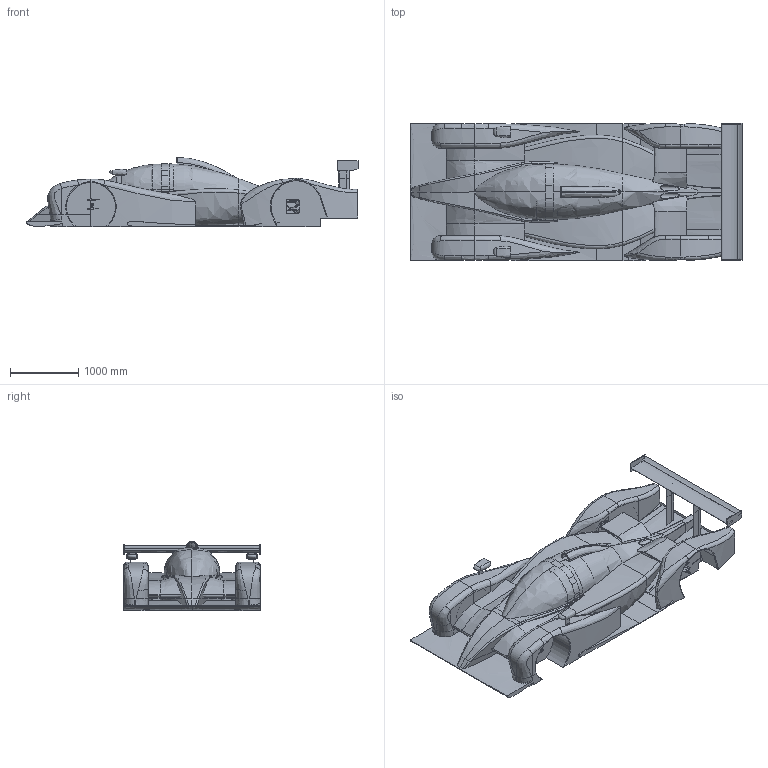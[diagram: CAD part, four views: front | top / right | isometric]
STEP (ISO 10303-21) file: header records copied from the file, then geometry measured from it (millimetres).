
FILE_DESCRIPTION(('STEP AP214'),'1');
FILE_NAME('MP006C.stp','2018-07-25T14:05:00',(' '),(' '),'Spatial InterOp 3D',' ',' ');
FILE_SCHEMA(('AUTOMOTIVE_DESIGN { 1 0 10303 214 1 1 1 1 }'));
Length unit declared in the file: metre
Products named in the file (25): body; Front_wing; Diffuser_end; Body_front; Body_middle; Body_rear; MP006C; Wheels; Heat_exchanger_dx; Heat_exchanger_sx; cooling_mid_surface_dx; cooling_mid_surface_sx; footbox; footbox Geometry; parts; engine-intake; engine_exhaust; engine_exhaust_dx; engine_exhaust_sx; suspensions; rear_suspensions; front_suspensions; high_resolution; rear-wing; diffuser_strakes
Assembly tree (24 placements, depth 3):
  MP006C
    body
      Front_wing
      Diffuser_end
      Body_front
      Body_middle
      Body_rear
    Wheels
    Heat_exchanger_dx
    Heat_exchanger_sx
    cooling_mid_surface_dx
    cooling_mid_surface_sx
    footbox
      footbox Geometry
      parts
    engine-intake
    engine_exhaust
      engine_exhaust_dx
      engine_exhaust_sx
    suspensions
      rear_suspensions
      front_suspensions
    high_resolution
      rear-wing
      diffuser_strakes
Bounding box: 4848.48 x 2000 x 1009.98 mm (x, y, z)
Volume: 3272401063.3 mm3; surface area: 59256711.5 mm2
Topology: 27 solids, 32 shells, 776 faces, 2148 edges, 1415 vertices
Faces by surface type: bspline 396, plane 248, cylinder 108, extrusion 10, torus 8, sphere 6
Entity records: 93081 total; most frequent: CARTESIAN_POINT 69678, ORIENTED_EDGE 4252, EDGE_CURVE 2136, DIRECTION 2069, VERTEX_POINT 1417, B_SPLINE_CURVE_WITH_KNOTS 1158, STYLED_ITEM 806, PRESENTATION_STYLE_ASSIGNMENT 806
